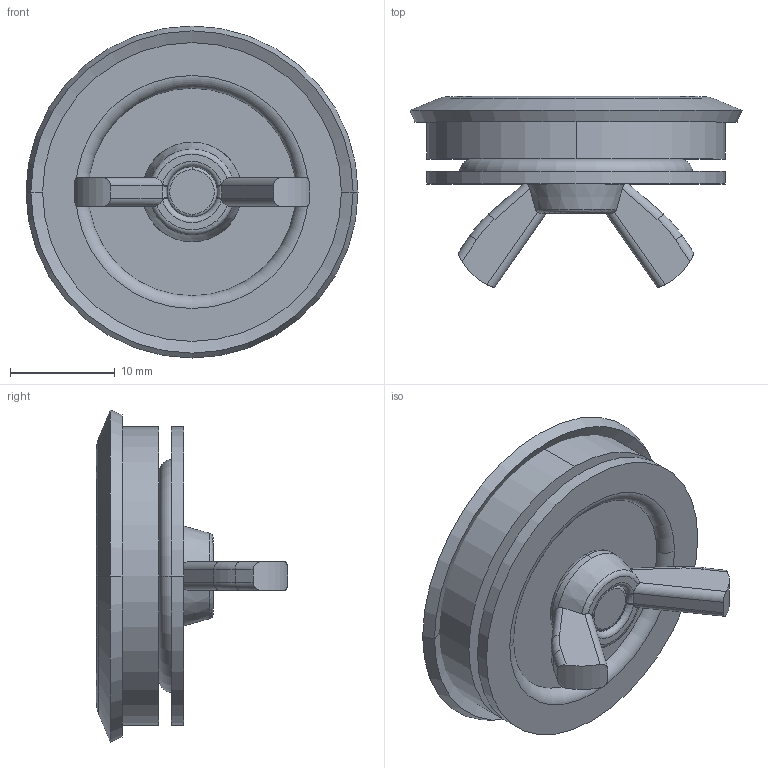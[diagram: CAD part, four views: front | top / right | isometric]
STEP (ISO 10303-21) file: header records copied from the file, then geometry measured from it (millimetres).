
FILE_DESCRIPTION((''),'2;1');
FILE_NAME('SCE-ASPBG-05_ASM','2021-04-06T12:39:58',('Tony.Gonzales'),('SAGINAW CONTROL & ENGINEERING'),'CREO PARAMETRIC BY PTC INC, 2017260','CREO PARAMETRIC BY PTC INC, 2017260','');
FILE_SCHEMA(('AUTOMOTIVE_DESIGN { 1 0 10303 214 1 1 1 1 }'));
Length unit declared in the file: inch
Products named in the file (7): 105301_FACEPLATE; 102291; 105301_ASM; 100688; 105300; 100895; SCE-ASPBG-05_ASM
Assembly tree (6 placements, depth 3):
  SCE-ASPBG-05_ASM
    105301_ASM
      105301_FACEPLATE
      102291
    100688
    105300
    100895
Bounding box: 31.75 x 18.28 x 31.75 mm (x, y, z)
Volume: 5380.2 mm3; surface area: 5690.7 mm2
Topology: 5 solids, 5 shells, 98 faces, 224 edges, 138 vertices
Faces by surface type: cylinder 32, plane 28, torus 22, cone 10, bspline 6
Entity records: 4545 total; most frequent: CARTESIAN_POINT 889, DIRECTION 506, ORIENTED_EDGE 448, EDGE_CURVE 224, AXIS2_PLACEMENT_3D 223, PROPERTY_DEFINITION 223, REPRESENTATION 218, PROPERTY_DEFINITION_REPRESENTATION 218
